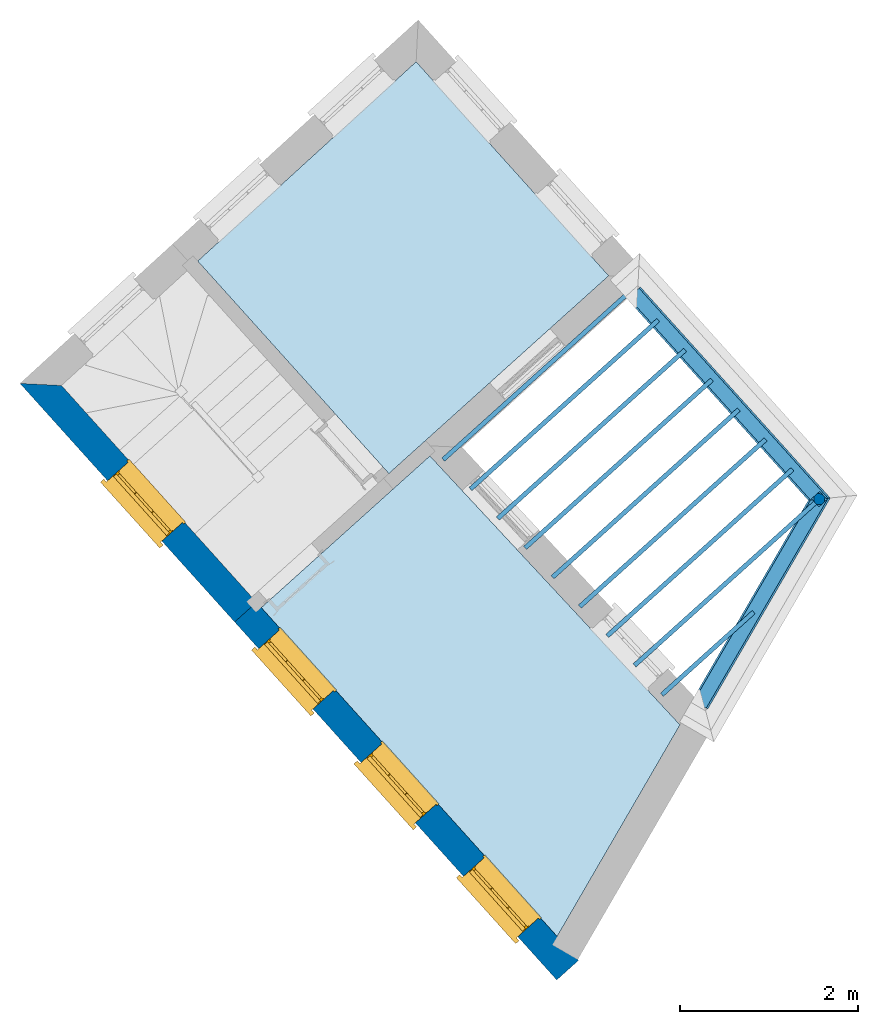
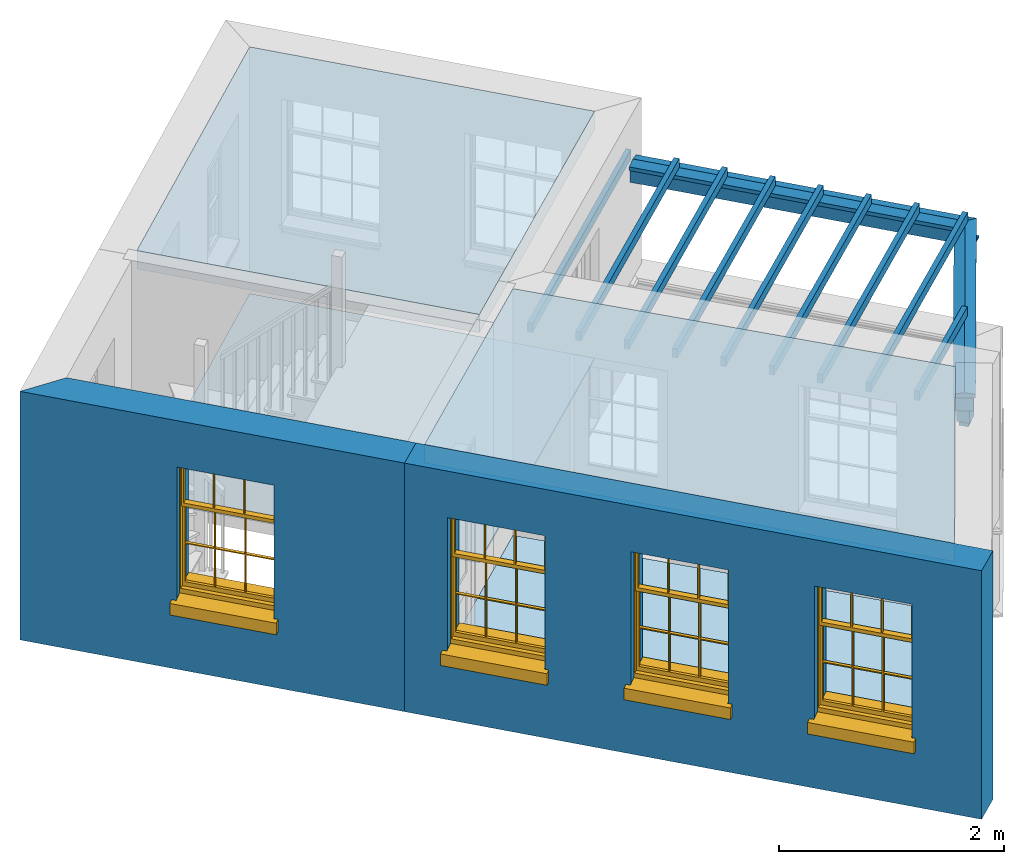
# One storey, part 1 of 7: 13 beams, 4 slabs, 4 windows, 2 walls, 1 column, 4 openings.
"""IFC4 building model written with IfcOpenShell, lengths in metres."""

from ifc_helpers import new_model, si_unit, frame, origin, origin_with_axes, place, context, subcontext, project, spatial, polyline, outline, extrude, clip, halfspace, faceted_brep, source, transform, mapped, material, layer, layer_set, layer_usage, material_profile, profile_set, profile_usage, type_object, type_shapes, element, fill, save


model = new_model("IFC4")

# Units and contexts
model_context = context("Model", 3, world=origin_with_axes())
body_context = subcontext(model_context, "Body", "Model", "MODEL_VIEW")
ifc_project = project(units=[si_unit("PLANEANGLEUNIT", "RADIAN"), si_unit("MASSUNIT", "GRAM", prefix="KILO"), si_unit("FORCEUNIT", "NEWTON", prefix="KILO"), si_unit("LENGTHUNIT", "METRE"), si_unit("AREAUNIT", "SQUARE_METRE"), si_unit("VOLUMEUNIT", "CUBIC_METRE")], contexts=[model_context, model_context])

# Sites, building, storey
site_1_placement = place(None, origin_with_axes())
site_1 = spatial("IfcSite", under=ifc_project, at=site_1_placement, Name="Tamar")
site_2_placement = place(site_1_placement, origin_with_axes())
site_2 = spatial("IfcSite", under=site_1, at=site_2_placement, Name="Site plot-7", CompositionType="ELEMENT")
building_placement = place(None, origin_with_axes())
building = spatial("IfcBuilding", under=site_2, at=building_placement, Name="Building plot-7", CompositionType="ELEMENT")
storey_placement = place(None, frame((0.0, 0.0, 29.15), z_axis=(0.0, 0.0, 1.0), x_axis=(1.0, 0.0, 0.0)))
storey = spatial("IfcBuildingStorey", under=building, at=storey_placement, Name="plot-7 1", CompositionType="ELEMENT", Elevation=29.15)

# Column
column_type = type_object("IfcColumnType", Name="pergola post", PredefinedType="NOTDEFINED")
shared_shape_1 = source(origin(), body_context, "Body", "Brep", [
    faceted_brep([(0.0246, -0.0615, 1.72), (0.0615, -0.0246, 1.72), (0.0615, -0.0615, 1.766667), (0.0615, -0.0246, 1.044444), (0.0246, -0.0615, 1.044444), (0.0615, 0.0246, 1.72), (0.0615, 0.0615, 1.766667), (-0.0246, -0.0615, 1.72), (-0.0615, -0.0615, 1.766667), (-0.0246, -0.0615, 1.044444), (0.0615, -0.0615, 0.997778), (0.0615, 0.0246, 1.044444), (0.0246, 0.0615, 1.72), (0.0615, 0.0615, 1.891111), (0.0615, -0.0615, 1.891111), (-0.0615, -0.0615, 1.891111), (-0.0615, -0.0246, 1.72), (-0.0615, -0.0246, 1.044444), (-0.0615, -0.0615, 0.997778), (0.0615, 0.0615, 0.997778), (0.0246, 0.0615, 1.044444), (-0.0246, 0.0615, 1.72), (-0.0615, 0.0615, 1.766667), (0.04305, 0.04305, 1.891111), (0.04305, -0.04305, 1.891111), (-0.0615, 0.0615, 1.891111), (-0.04305, -0.04305, 1.891111), (-0.0615, 0.0246, 1.72), (-0.0615, 0.0246, 1.044444), (0.0615, -0.0615, 0.053333), (-0.0615, -0.0615, 0.053333), (0.0615, 0.0615, 0.053333), (-0.0246, 0.0615, 1.044444), (-0.04305, 0.04305, 1.891111), (0.04305, 0.04305, 1.914444), (0.04305, -0.04305, 1.914444), (-0.04305, -0.04305, 1.914444), (-0.0615, 0.0615, 0.997778), (-0.0615, 0.0615, 0.053333), (-0.04305, -0.04305, 0.053333), (0.04305, -0.04305, 0.053333), (0.04305, 0.04305, 0.053333), (-0.04305, 0.04305, 1.914444), (0.07995, 0.07995, 1.914444), (0.07995, -0.07995, 1.914444), (-0.07995, -0.07995, 1.914444), (-0.04305, 0.04305, 0.053333), (-0.04305, -0.04305, 0.0), (0.04305, -0.04305, 0.0), (0.04305, 0.04305, 0.0), (-0.07995, 0.07995, 1.914444), (0.07995, 0.07995, 1.976667), (0.07995, -0.07995, 1.976667), (-0.07995, -0.07995, 1.976667), (-0.04305, 0.04305, 0.0), (-0.07995, 0.07995, 1.976667), (0.0984, 0.0984, 1.976667), (0.0984, -0.0984, 1.976667), (-0.0984, -0.0984, 1.976667), (-0.0984, 0.0984, 1.976667), (0.0984, 0.0984, 2.0), (0.0984, -0.0984, 2.0), (-0.0984, -0.0984, 2.0), (-0.0984, 0.0984, 2.0)], [[[0, 1, 2]], [[3, 1, 0, 4]], [[1, 5, 6, 2]], [[7, 0, 2, 8]], [[4, 0, 7, 9]], [[3, 4, 10]], [[1, 3, 11, 5]], [[5, 12, 6]], [[13, 14, 2, 6]], [[15, 8, 2, 14]], [[8, 16, 7]], [[9, 7, 16, 17]], [[9, 18, 10, 4]], [[3, 10, 19, 11]], [[20, 12, 5, 11]], [[21, 22, 6, 12]], [[14, 13, 23, 24]], [[13, 6, 22, 25]], [[25, 22, 8, 15]], [[26, 15, 14, 24]], [[16, 8, 22, 27]], [[27, 28, 17, 16]], [[17, 18, 9]], [[29, 10, 18, 30]], [[31, 19, 10, 29]], [[20, 11, 19]], [[12, 20, 32, 21]], [[21, 27, 22]], [[33, 23, 13, 25]], [[23, 34, 35, 24]], [[26, 33, 25, 15]], [[36, 26, 24, 35]], [[28, 27, 21, 32]], [[17, 28, 37, 18]], [[38, 30, 18, 37]], [[29, 30, 39, 40]], [[31, 38, 37, 19]], [[40, 41, 31, 29]], [[32, 20, 19, 37]], [[33, 42, 34, 23]], [[43, 44, 35, 34]], [[42, 33, 26, 36]], [[36, 35, 44, 45]], [[28, 32, 37]], [[46, 39, 30, 38]], [[39, 47, 48, 40]], [[46, 38, 31, 41]], [[49, 41, 40, 48]], [[43, 34, 42, 50]], [[43, 51, 52, 44]], [[45, 50, 42, 36]], [[53, 45, 44, 52]], [[46, 54, 47, 39]], [[54, 46, 41, 49]], [[50, 55, 51, 43]], [[56, 57, 52, 51]], [[55, 50, 45, 53]], [[53, 52, 57, 58]], [[56, 51, 55, 59]], [[56, 60, 61, 57]], [[58, 59, 55, 53]], [[62, 58, 57, 61]], [[59, 63, 60, 56]], [[63, 62, 61, 60]], [[58, 62, 63, 59]], [[47, 54, 49, 48]]]),
])
type_shapes(column_type, [shared_shape_1])
column_placement = place(storey_placement, frame((248.082755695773, 285.854256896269, 0.0), z_axis=(0.0, 0.0, 1.0), x_axis=(-0.668853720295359, 0.743394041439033, 0.0)))
element("IfcColumn", 1, at=column_placement, inside=storey, type_object=column_type, Name="pergola post", context=body_context, shape_type="MappedRepresentation", body=[
    mapped(shared_shape_1, transform((0.0, 0.0, 0.0), scale=1.0)),
])

# Beams
ifc_material_profile_1 = material_profile(None, outline(polyline([(-0.08, -0.7), (0.08, -0.7), (0.08, -0.56), (-0.08, -0.56), (-0.08, -0.7)])))
ifc_profile_set_1 = profile_set([ifc_material_profile_1])
ifc_profile_usage_1 = profile_usage(ifc_profile_set_1)
beam_type_1 = type_object("IfcBeamType", Name="pergola beam_0", PredefinedType="NOTDEFINED", material=ifc_profile_set_1)
beam_1_placement = place(storey_placement, frame((248.584814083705, 286.719090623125, 2.7), z_axis=(-0.502058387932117, -0.864833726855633, 0.0), x_axis=(0.864833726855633, -0.502058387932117, 0.0)))
element("IfcBeam", 2, at=beam_1_placement, inside=storey, type_object=beam_type_1, material=ifc_profile_usage_1, Name="pergola beam_0", context=body_context, shape_type="Clipping", body=[
    clip(clip(extrude(outline(polyline([(-0.08, -0.7), (0.08, -0.7), (0.08, -0.56), (-0.08, -0.56), (-0.08, -0.7)])), origin_with_axes(), (0.0, 0.0, 1.0), 4.66324546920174), halfspace(frame((0.0, 0.0, 3.66324546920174), z_axis=(-2.09334252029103e-14, 0.0, -1.0), x_axis=(0.0, 1.0, 0.0)), True)), halfspace(frame((0.0, 0.0, 1.0), z_axis=(-0.588596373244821, 0.0, -0.80842705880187), x_axis=(0.0, 1.0, 0.0)), False)),
])
ifc_profile_usage_2 = profile_usage(ifc_profile_set_1)
beam_2_placement = place(storey_placement, frame((245.33300074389, 288.910457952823, 2.7), z_axis=(0.668853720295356, -0.743394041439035, 0.0), x_axis=(0.743394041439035, 0.668853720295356, 0.0)))
element("IfcBeam", 3, at=beam_2_placement, inside=storey, type_object=beam_type_1, material=ifc_profile_usage_2, Name="pergola beam_0", context=body_context, shape_type="Clipping", body=[
    clip(clip(extrude(outline(polyline([(-0.08, -0.7), (0.08, -0.7), (0.08, -0.56), (-0.08, -0.56), (-0.08, -0.7)])), origin_with_axes(), (0.0, 0.0, 1.0), 5.11114548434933), halfspace(frame((0.0, 0.0, 4.11114548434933), z_axis=(0.588596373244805, 0.0, -0.808427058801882), x_axis=(0.0, 1.0, 0.0)), True)), halfspace(frame((0.0, 0.0, 1.0), z_axis=(-5.83439206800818e-15, 0.0, -1.0), x_axis=(0.0, 1.0, 0.0)), False)),
])
ifc_material_profile_2 = material_profile(None, outline(polyline([(0.0, -0.5), (-0.1, -0.52), (-0.1, -0.56), (0.1, -0.56), (0.1, -0.52), (0.0, -0.5)])))
ifc_profile_set_2 = profile_set([ifc_material_profile_2])
ifc_profile_usage_3 = profile_usage(ifc_profile_set_2)
beam_type_2 = type_object("IfcBeamType", Name="pergola beam_1", PredefinedType="NOTDEFINED", material=ifc_profile_set_2)
beam_3_placement = place(storey_placement, frame((248.584814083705, 286.719090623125, 2.7), z_axis=(-0.502058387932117, -0.864833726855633, 0.0), x_axis=(0.864833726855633, -0.502058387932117, 0.0)))
element("IfcBeam", 4, at=beam_3_placement, inside=storey, type_object=beam_type_2, material=ifc_profile_usage_3, Name="pergola beam_1", context=body_context, shape_type="Clipping", body=[
    clip(clip(extrude(outline(polyline([(0.0, -0.5), (-0.1, -0.52), (-0.1, -0.56), (0.1, -0.56), (0.1, -0.52), (0.0, -0.5)])), origin_with_axes(), (0.0, 0.0, 1.0), 4.66324546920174), halfspace(frame((0.0, 0.0, 3.66324546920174), z_axis=(-2.09334252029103e-14, 0.0, -1.0), x_axis=(0.0, 1.0, 0.0)), True)), halfspace(frame((0.0, 0.0, 1.0), z_axis=(-0.588596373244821, 0.0, -0.80842705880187), x_axis=(0.0, 1.0, 0.0)), False)),
])
ifc_profile_usage_4 = profile_usage(ifc_profile_set_2)
beam_4_placement = place(storey_placement, frame((245.33300074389, 288.910457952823, 2.7), z_axis=(0.668853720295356, -0.743394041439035, 0.0), x_axis=(0.743394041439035, 0.668853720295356, 0.0)))
element("IfcBeam", 5, at=beam_4_placement, inside=storey, type_object=beam_type_2, material=ifc_profile_usage_4, Name="pergola beam_1", context=body_context, shape_type="Clipping", body=[
    clip(clip(extrude(outline(polyline([(0.0, -0.5), (-0.1, -0.52), (-0.1, -0.56), (0.1, -0.56), (0.1, -0.52), (0.0, -0.5)])), origin_with_axes(), (0.0, 0.0, 1.0), 5.11114548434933), halfspace(frame((0.0, 0.0, 4.11114548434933), z_axis=(0.588596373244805, 0.0, -0.808427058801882), x_axis=(0.0, 1.0, 0.0)), True)), halfspace(frame((0.0, 0.0, 1.0), z_axis=(-5.83439206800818e-15, 0.0, -1.0), x_axis=(0.0, 1.0, 0.0)), False)),
])
beam_5_placement = place(storey_placement, frame((247.363821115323, 284.568448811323, 2.2)))
element("IfcBeam", 6, at=beam_5_placement, inside=storey, Name="My Beam", ObjectType="Beam", context=body_context, shape_type="SweptSolid", body=[
    extrude(outline(polyline([(0.0, 0.0), (-0.0334426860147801, 0.0371697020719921), (-1.06331303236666, -0.889435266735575), (-1.02987034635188, -0.926604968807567), (0.0, 0.0)])), origin_with_axes(), (0.0, 0.0, 1.0), 0.1),
])
beam_6_placement = place(storey_placement, frame((248.09947703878, 285.835672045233, 2.2)))
element("IfcBeam", 7, at=beam_6_placement, inside=storey, Name="My Beam", ObjectType="Beam", context=body_context, shape_type="SweptSolid", body=[
    extrude(outline(polyline([(0.0, 0.0), (-0.0334426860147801, 0.0371697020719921), (-2.1054978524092, -1.82711993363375), (-2.07205516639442, -1.86428963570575), (0.0, 0.0)])), origin_with_axes(), (0.0, 0.0, 1.0), 0.1),
])
beam_7_placement = place(storey_placement, frame((247.798492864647, 286.170199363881, 2.2)))
element("IfcBeam", 8, at=beam_7_placement, inside=storey, Name="My Beam", ObjectType="Beam", context=body_context, shape_type="SweptSolid", body=[
    extrude(outline(polyline([(0.0, 0.0), (-0.0334426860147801, 0.0371697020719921), (-2.11104257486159, -1.83210868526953), (-2.07759988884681, -1.86927838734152), (0.0, 0.0)])), origin_with_axes(), (0.0, 0.0, 1.0), 0.1),
])
beam_8_placement = place(storey_placement, frame((247.497508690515, 286.504726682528, 2.2)))
element("IfcBeam", 9, at=beam_8_placement, inside=storey, Name="My Beam", ObjectType="Beam", context=body_context, shape_type="SweptSolid", body=[
    extrude(outline(polyline([(0.0, 0.0), (-0.0334426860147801, 0.0371697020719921), (-2.116587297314, -1.83709743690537), (-2.08314461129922, -1.87426713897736), (0.0, 0.0)])), origin_with_axes(), (0.0, 0.0, 1.0), 0.1),
])
beam_9_placement = place(storey_placement, frame((247.196524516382, 286.839254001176, 2.2)))
element("IfcBeam", 10, at=beam_9_placement, inside=storey, Name="My Beam", ObjectType="Beam", context=body_context, shape_type="SweptSolid", body=[
    extrude(outline(polyline([(0.0, 0.0), (-0.0334426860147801, 0.0371697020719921), (-2.12213201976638, -1.8420861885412), (-2.0886893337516, -1.87925589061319), (0.0, 0.0)])), origin_with_axes(), (0.0, 0.0, 1.0), 0.1),
])
beam_10_placement = place(storey_placement, frame((246.895540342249, 287.173781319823, 2.2)))
element("IfcBeam", 11, at=beam_10_placement, inside=storey, Name="My Beam", ObjectType="Beam", context=body_context, shape_type="SweptSolid", body=[
    extrude(outline(polyline([(0.0, 0.0), (-0.0334426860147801, 0.0371697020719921), (-2.1276767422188, -1.84707494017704), (-2.09423405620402, -1.88424464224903), (0.0, 0.0)])), origin_with_axes(), (0.0, 0.0, 1.0), 0.1),
])
beam_11_placement = place(storey_placement, frame((246.594556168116, 287.508308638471, 2.2)))
element("IfcBeam", 12, at=beam_11_placement, inside=storey, Name="My Beam", ObjectType="Beam", context=body_context, shape_type="SweptSolid", body=[
    extrude(outline(polyline([(0.0, 0.0), (-0.0334426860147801, 0.0371697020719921), (-2.13322146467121, -1.85206369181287), (-2.09977877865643, -1.88923339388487), (0.0, 0.0)])), origin_with_axes(), (0.0, 0.0, 1.0), 0.1),
])
beam_12_placement = place(storey_placement, frame((246.293571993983, 287.842835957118, 2.2)))
element("IfcBeam", 13, at=beam_12_placement, inside=storey, Name="My Beam", ObjectType="Beam", context=body_context, shape_type="SweptSolid", body=[
    extrude(outline(polyline([(0.0, 0.0), (-0.0334426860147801, 0.0371697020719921), (-2.13876618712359, -1.85705244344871), (-2.10532350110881, -1.8942221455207), (0.0, 0.0)])), origin_with_axes(), (0.0, 0.0, 1.0), 0.1),
])
beam_13_placement = place(storey_placement, frame((245.99258781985, 288.177363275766, 2.2)))
element("IfcBeam", 14, at=beam_13_placement, inside=storey, Name="My Beam", ObjectType="Beam", context=body_context, shape_type="SweptSolid", body=[
    extrude(outline(polyline([(0.0, 0.0), (-0.0334426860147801, 0.0371697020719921), (-2.14431090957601, -1.86204119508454), (-2.11086822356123, -1.89921089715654), (0.0, 0.0)])), origin_with_axes(), (0.0, 0.0, 1.0), 0.1),
])

# Slabs
slab_1_placement = place(storey_placement, frame((243.256453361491, 286.14085485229, 2.5)))
element("IfcSlab", 15, at=slab_1_placement, inside=storey, Name="My Slab", ObjectType="Slab", PredefinedType="FLOOR", context=body_context, shape_type="SweptSolid", body=[
    extrude(outline(polyline([(0.0, 0.0), (2.46520785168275, 2.21802079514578), (0.30557225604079, 4.61833671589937), (-2.14384101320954, 2.3827611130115), (0.0, 0.0)])), origin_with_axes(), (0.0, 0.0, 1.0), 0.2),
])
slab_2_placement = place(storey_placement, frame((243.256453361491, 286.14085485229, 0.0)))
element("IfcSlab", 16, at=slab_2_placement, inside=storey, Name="My Slab", ObjectType="Slab", PredefinedType="FLOOR", context=body_context, shape_type="SweptSolid", body=[
    extrude(outline(polyline([(0.0, 0.0), (2.46520785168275, 2.21802079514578), (0.30557225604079, 4.61833671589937), (-2.14384101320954, 2.3827611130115), (0.0, 0.0)])), origin_with_axes(), (0.0, 0.0, 1.0), 0.02),
])
slab_3_placement = place(storey_placement, frame((245.14349583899, 280.950502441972, 2.5)))
element("IfcSlab", 17, at=slab_3_placement, inside=storey, Name="My Slab", ObjectType="Slab", PredefinedType="FLOOR", context=body_context, shape_type="SweptSolid", body=[
    extrude(outline(polyline([(0.0, 0.0), (1.37769853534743, 2.37319042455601), (-1.42731034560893, 5.38875801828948), (-3.31793745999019, 3.68770459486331), (0.0, 0.0)])), origin_with_axes(), (0.0, 0.0, 1.0), 0.2),
])
slab_4_placement = place(storey_placement, frame((245.14349583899, 280.950502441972, 0.0)))
element("IfcSlab", 18, at=slab_4_placement, inside=storey, Name="My Slab", ObjectType="Slab", PredefinedType="FLOOR", context=body_context, shape_type="SweptSolid", body=[
    extrude(outline(polyline([(0.0, 0.0), (1.37769853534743, 2.37319042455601), (-1.42731034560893, 5.38875801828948), (-3.31793745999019, 3.68770459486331), (0.0, 0.0)])), origin_with_axes(), (0.0, 0.0, 1.0), 0.02),
])

# Wall, opening, window
ifc_material = material(Name="Masonry")
ifc_layer = layer(ifc_material, 0.33, ventilated=False)
ifc_layer_set = layer_set([ifc_layer], Name="exterior_0.08_0.25")
ifc_layer_usage = layer_usage(ifc_layer_set, "AXIS2", "POSITIVE", -0.25)
wall_type = type_object("IfcWallType", Name="exterior_0.08_0.25", PredefinedType="SOLIDWALL", material=ifc_layer_set)
wall_1_placement = place(storey_placement, frame((239.471954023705, 287.134500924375, 0.0), z_axis=(0.0, 0.0, 1.0), x_axis=(0.668853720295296, -0.743394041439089, 0.0)))
wall_1 = element("IfcWall", 19, at=wall_1_placement, inside=storey, type_object=wall_type, material=ifc_layer_usage, Name="exterior", context=body_context, shape_type="SweptSolid", body=[
    extrude(outline(polyline([(0.0794323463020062, 0.0799999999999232), (-0.248226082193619, -0.250000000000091), (3.34994703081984, -0.250000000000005), (3.34994703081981, 0.0800000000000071), (0.0794323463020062, 0.0799999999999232)])), origin_with_axes(), (0.0, 0.0, 1.0), 2.7),
])
opening_1_placement = place(wall_1_placement, frame((1.21997351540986, 0.0, 0.75)))
opening_1 = element("IfcOpeningElement", 20, at=opening_1_placement, cuts=wall_1, Name="My Opening", ObjectType="Opening", context=body_context, shape_type="SweptSolid", body=[
    extrude(outline(polyline([(0.0, -0.269999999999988), (0.910000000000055, -0.27), (0.910000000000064, 1.09999999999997), (9.32587340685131e-15, 1.09999999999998), (0.0, -0.269999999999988)])), origin_with_axes(), (0.0, 0.0, 1.0), 1.445),
])
window_type = type_object("IfcWindowType", Name="sash_shorter", PartitioningType="DOUBLE_PANEL_HORIZONTAL", PredefinedType="NOTDEFINED")
shared_shape_2 = source(origin(), body_context, "Body", "Brep", [
    faceted_brep([(0.876875, 0.145, 0.999097), (0.876875, 0.145, 1.411875), (0.9, 0.145, 1.435), (0.033125, 0.145, 1.411875), (0.033125, 0.145, 0.999097), (0.01, 0.145, 1.435), (0.033125, 0.115, 1.411875), (0.01, 0.115, 1.435), (0.033125, 0.115, 0.999097), (0.876875, 0.115, 1.411875), (0.876875, 0.115, 0.999097), (0.9, 0.115, 1.435), (0.033125, 0.145, 0.960972), (0.01, 0.145, 0.960972), (0.033125, 0.145, 0.548195), (0.876875, 0.145, 0.960972), (0.876875, 0.145, 0.548195), (0.9, 0.145, 0.960972), (0.876875, 0.145, 0.538195), (0.876875, 0.145, 0.125417), (0.9, 0.145, 0.077167), (0.033125, 0.145, 0.125417), (0.033125, 0.145, 0.538195), (0.01, 0.145, 0.077167), (0.9, 0.115, 0.960972), (0.01, 0.115, 0.960972), (-0.0425, 0.0, 0.01), (-0.0425, -0.05, 0.001667), (0.0, 0.0, 0.01), (0.9525, 0.0, 0.01), (0.91, 0.0, 0.01), (0.9525, -0.05, 0.001667), (-0.02, 0.33, 0.077167), (0.0, 0.33, 0.077167), (-0.02, 0.36, 0.077167), (0.0, 0.19, 0.077167), (0.01, 0.19, 0.077167), (0.91, 0.19, 0.077167), (0.91, 0.33, 0.077167), (0.9, 0.19, 0.077167), (0.93, 0.33, 0.077167), (0.93, 0.36, 0.077167), (0.01, 0.145, 0.999097), (0.01, 0.175, 0.999097), (0.9, 0.145, 0.999097), (0.9, 0.175, 0.999097), (0.876875, 0.175, 0.125417), (0.876875, 0.175, 0.538195), (0.9, 0.175, 0.077167), (0.876875, 0.175, 0.548195), (0.876875, 0.175, 0.960972), (0.033125, 0.175, 0.125417), (0.01, 0.175, 0.077167), (0.033125, 0.175, 0.538195), (0.033125, 0.175, 0.960972), (0.033125, 0.175, 0.548195), (-0.02, 0.33, 0.052167), (-0.02, 0.36, 0.052167), (0.93, 0.36, 0.052167), (0.93, 0.33, 0.052167), (0.91, 0.33, 0.052167), (0.0, 0.33, 0.052167), (0.91, 0.1, 0.026667), (0.0, 0.1, 0.026667), (-0.0425, -0.05, -0.123333), (0.9525, -0.05, -0.123333), (-0.0425, 0.0, -0.123333), (0.9525, 0.0, -0.123333), (0.01, 0.19, 1.435), (0.9, 0.19, 1.435), (0.0, 0.19, 1.445), (0.91, 0.19, 1.445), (0.01, 0.1, 0.077167), (0.9, 0.1, 0.077167), (0.592292, 0.145, 0.125417), (0.592292, 0.175, 0.125417), (0.317708, 0.175, 0.125417), (0.317708, 0.145, 0.125417), (0.592292, 0.145, 0.548195), (0.317708, 0.145, 0.548195), (0.317708, 0.145, 0.538195), (0.592292, 0.145, 0.538195), (0.592292, 0.175, 0.548195), (0.317708, 0.175, 0.548195), (0.602292, 0.175, 0.548195), (0.602292, 0.145, 0.548195), (0.317708, 0.175, 0.538195), (0.307708, 0.175, 0.125417), (0.307708, 0.175, 0.538195), (0.602292, 0.175, 0.538195), (0.602292, 0.175, 0.125417), (0.592292, 0.175, 0.538195), (0.307708, 0.175, 0.548195), (0.317708, 0.175, 0.960972), (0.307708, 0.175, 0.960972), (0.602292, 0.175, 0.960972), (0.592292, 0.175, 0.960972), (0.307708, 0.145, 0.538195), (0.307708, 0.145, 0.125417), (0.307708, 0.145, 0.548195), (0.307708, 0.145, 0.960972), (0.592292, 0.145, 0.960972), (0.317708, 0.145, 0.960972), (0.602292, 0.145, 0.960972), (0.602292, 0.145, 0.538195), (0.602292, 0.145, 0.125417), (0.317708, 0.115, 1.411875), (0.307708, 0.115, 1.411875), (0.307708, 0.115, 0.999097), (0.317708, 0.115, 0.999097), (0.602292, 0.115, 1.411875), (0.592292, 0.115, 1.411875), (0.592292, 0.115, 0.999097), (0.602292, 0.115, 0.999097), (0.317708, 0.145, 0.999097), (0.307708, 0.145, 0.999097), (0.307708, 0.145, 1.411875), (0.317708, 0.145, 1.411875), (0.602292, 0.145, 0.999097), (0.592292, 0.145, 0.999097), (0.592292, 0.145, 1.411875), (0.602292, 0.145, 1.411875), (0.91, 0.1, 1.445), (0.9, 0.1, 1.435), (0.01, 0.1, 1.435), (0.0, 0.1, 1.445), (0.91, 0.0, 0.0), (0.0, 0.0, 0.0), (0.91, 0.33, 0.0), (0.0, 0.33, 0.0)], [[[0, 1, 2]], [[3, 4, 5]], [[6, 7, 8]], [[9, 10, 11]], [[12, 13, 14]], [[15, 16, 17]], [[18, 19, 20]], [[21, 22, 23]], [[24, 15, 17]], [[13, 12, 25]], [[26, 27, 28]], [[29, 30, 31]], [[32, 33, 34]], [[35, 36, 33]], [[37, 38, 39]], [[40, 41, 38]], [[42, 4, 43]], [[44, 45, 0]], [[46, 47, 48]], [[49, 50, 45]], [[51, 52, 53]], [[54, 55, 43]], [[38, 33, 36, 39]], [[41, 34, 33, 38]], [[56, 32, 34, 57]], [[57, 34, 41, 58]], [[58, 41, 40, 59]], [[57, 58, 60, 61]], [[52, 48, 39, 36]], [[62, 63, 28, 30]], [[27, 31, 30, 28]], [[27, 64, 65, 31]], [[66, 67, 65, 64]], [[2, 5, 68, 69]], [[68, 70, 71, 69]], [[20, 23, 72, 73]], [[73, 72, 63, 62]], [[74, 75, 76, 77]], [[78, 79, 80, 81]], [[78, 82, 83, 79]], [[16, 49, 84, 85]], [[86, 76, 87, 88]], [[89, 90, 75, 91]], [[92, 88, 53, 55]], [[82, 91, 86, 83]], [[93, 83, 92, 94]], [[95, 84, 82, 96]], [[89, 84, 49, 47]], [[97, 88, 87, 98]], [[22, 53, 88, 97]], [[81, 91, 75, 74]], [[80, 86, 91, 81]], [[77, 76, 86, 80]], [[99, 92, 55, 14]], [[100, 94, 92, 99]], [[101, 96, 82, 78]], [[79, 83, 93, 102]], [[85, 84, 95, 103]], [[104, 89, 47, 18]], [[105, 90, 89, 104]], [[104, 18, 16, 85]], [[80, 97, 98, 77]], [[104, 81, 74, 105]], [[103, 101, 78, 85]], [[99, 14, 22, 97]], [[102, 100, 99, 79]], [[106, 107, 108, 109]], [[110, 111, 112, 113]], [[114, 115, 116, 117]], [[118, 119, 120, 121]], [[107, 116, 115, 108]], [[111, 120, 119, 112]], [[109, 114, 117, 106]], [[113, 118, 121, 110]], [[85, 78, 81, 104]], [[84, 89, 91, 82]], [[83, 86, 88, 92]], [[79, 99, 97, 80]], [[109, 112, 119, 114]], [[102, 93, 96, 101]], [[106, 117, 120, 111]], [[98, 87, 51, 21]], [[6, 3, 116, 107]], [[110, 121, 1, 9]], [[19, 46, 90, 105]], [[26, 66, 64, 27]], [[29, 31, 65, 67]], [[25, 24, 112, 109]], [[11, 7, 106, 111]], [[75, 48, 52, 76]], [[43, 45, 96, 93]], [[45, 43, 114, 119]], [[5, 2, 120, 117]], [[24, 25, 102, 101]], [[42, 5, 4]], [[2, 44, 0]], [[49, 45, 48, 47]], [[52, 43, 55, 53]], [[14, 13, 23, 22]], [[20, 17, 16, 18]], [[24, 11, 10]], [[25, 8, 7]], [[8, 4, 3, 6]], [[9, 1, 0, 10]], [[15, 50, 49, 16]], [[18, 47, 46, 19]], [[21, 51, 53, 22]], [[14, 55, 54, 12]], [[44, 2, 69, 45]], [[68, 5, 42, 43]], [[36, 35, 70, 68]], [[39, 69, 71, 37]], [[62, 122, 123, 73]], [[63, 72, 124, 125]], [[8, 108, 115, 4]], [[113, 10, 0, 118]], [[94, 100, 12, 54]], [[17, 20, 73, 24]], [[72, 23, 13, 25]], [[52, 36, 68, 43]], [[69, 39, 48, 45]], [[11, 24, 73, 123]], [[7, 124, 72, 25]], [[23, 77, 98]], [[98, 21, 23]], [[105, 74, 20]], [[20, 19, 105]], [[20, 74, 77, 23]], [[113, 112, 24]], [[24, 10, 113]], [[25, 109, 108]], [[108, 8, 25]], [[110, 9, 11]], [[11, 111, 110]], [[7, 6, 107]], [[107, 106, 7]], [[5, 117, 116]], [[116, 3, 5]], [[121, 120, 2]], [[2, 1, 121]], [[11, 123, 124, 7]], [[122, 125, 124, 123]], [[43, 93, 94]], [[94, 54, 43]], [[96, 45, 95]], [[50, 95, 45]], [[15, 103, 95, 50]], [[48, 75, 90]], [[90, 46, 48]], [[87, 76, 52]], [[52, 51, 87]], [[103, 15, 24]], [[24, 101, 103]], [[100, 102, 25]], [[25, 12, 100]], [[115, 114, 43]], [[43, 4, 115]], [[118, 0, 45]], [[45, 119, 118]], [[71, 70, 125, 122]], [[70, 35, 63, 125]], [[122, 62, 37, 71]], [[126, 67, 66, 127]], [[60, 58, 59]], [[38, 60, 59, 40]], [[61, 56, 57]], [[32, 56, 61, 33]], [[61, 60, 128, 129]], [[62, 60, 38, 37]], [[126, 128, 60, 62]], [[33, 61, 63, 35]], [[61, 129, 127, 63]], [[128, 126, 127, 129]], [[28, 127, 66, 26]], [[63, 127, 28]], [[29, 67, 126, 30]], [[30, 126, 62]]]),
])
type_shapes(window_type, [shared_shape_2])
window_1_placement = place(storey_placement, frame((240.08722145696, 286.046989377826, 0.75), z_axis=(0.0, 0.0, 1.0), x_axis=(0.608656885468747, -0.67648857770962, 0.0)))
window_1 = element("IfcWindow", 21, at=window_1_placement, inside=storey, type_object=window_type, Name="circulation outside window", OverallHeight=1.445, OverallWidth=0.91, context=body_context, shape_type="MappedRepresentation", body=[
    mapped(shared_shape_2, transform((0.0, 0.0, 0.0), scale=1.0)),
])
fill(opening_1, window_1)

# Wall, openings, windows
wall_2_placement = place(storey_placement, frame((241.712578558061, 284.644170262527, 0.0), z_axis=(0.0, 0.0, 1.0), x_axis=(0.66885372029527, -0.743394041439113, 0.0)))
wall_2 = element("IfcWall", 22, at=wall_2_placement, inside=storey, type_object=wall_type, material=ifc_layer_usage, Name="exterior", context=body_context, shape_type="SweptSolid", body=[
    extrude(outline(polyline([(-1.40638475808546e-14, 0.080000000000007), (3.03741866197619e-14, -0.250000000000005), (5.40051106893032, -0.250000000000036), (5.40051106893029, 0.0799999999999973), (-1.40638475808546e-14, 0.080000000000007)])), origin_with_axes(), (0.0, 0.0, 1.0), 2.7),
])
opening_2_placement = place(wall_2_placement, frame((0.40341851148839, 0.0, 0.75)))
opening_2 = element("IfcOpeningElement", 23, at=opening_2_placement, cuts=wall_2, Name="My Opening", ObjectType="Opening", context=body_context, shape_type="SweptSolid", body=[
    extrude(outline(polyline([(0.0, -0.269999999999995), (0.909999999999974, -0.269999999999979), (0.909999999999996, 1.09999999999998), (2.18713935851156e-14, 1.09999999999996), (0.0, -0.269999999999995)])), origin_with_axes(), (0.0, 0.0, 1.0), 1.445),
])
opening_3_placement = place(wall_2_placement, frame((2.12025553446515, 0.0, 0.75)))
opening_3 = element("IfcOpeningElement", 24, at=opening_3_placement, cuts=wall_2, Name="My Opening", ObjectType="Opening", context=body_context, shape_type="SweptSolid", body=[
    extrude(outline(polyline([(0.0, -0.270000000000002), (0.909999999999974, -0.269999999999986), (0.909999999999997, 1.09999999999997), (2.17603712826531e-14, 1.09999999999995), (0.0, -0.270000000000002)])), origin_with_axes(), (0.0, 0.0, 1.0), 1.445),
])
opening_4_placement = place(wall_2_placement, frame((3.83709255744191, 0.0, 0.75)))
opening_4 = element("IfcOpeningElement", 25, at=opening_4_placement, cuts=wall_2, Name="My Opening", ObjectType="Opening", context=body_context, shape_type="SweptSolid", body=[
    extrude(outline(polyline([(0.0, -0.270000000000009), (0.909999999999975, -0.269999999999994), (0.909999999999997, 1.09999999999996), (2.1316282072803e-14, 1.09999999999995), (0.0, -0.270000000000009)])), origin_with_axes(), (0.0, 0.0, 1.0), 1.445),
])
window_2_placement = place(storey_placement, frame((241.781690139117, 284.163680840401, 0.75), z_axis=(0.0, 0.0, 1.0), x_axis=(0.60865688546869, -0.676488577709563, 0.0)))
window_2 = element("IfcWindow", 26, at=window_2_placement, inside=storey, type_object=window_type, Name="bedroom outside window", OverallHeight=1.445, OverallWidth=0.91, context=body_context, shape_type="MappedRepresentation", body=[
    mapped(shared_shape_2, transform((0.0, 0.0, 0.0), scale=1.0)),
])
fill(opening_2, window_2)
window_3_placement = place(storey_placement, frame((242.930002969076, 282.887394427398, 0.75), z_axis=(0.0, 0.0, 1.0), x_axis=(0.60865688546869, -0.676488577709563, 0.0)))
window_3 = element("IfcWindow", 27, at=window_3_placement, inside=storey, type_object=window_type, Name="bedroom outside window", OverallHeight=1.445, OverallWidth=0.91, context=body_context, shape_type="MappedRepresentation", body=[
    mapped(shared_shape_2, transform((0.0, 0.0, 0.0), scale=1.0)),
])
fill(opening_3, window_3)
window_4_placement = place(storey_placement, frame((244.078315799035, 281.611108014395, 0.75), z_axis=(0.0, 0.0, 1.0), x_axis=(0.60865688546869, -0.676488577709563, 0.0)))
window_4 = element("IfcWindow", 28, at=window_4_placement, inside=storey, type_object=window_type, Name="bedroom outside window", OverallHeight=1.445, OverallWidth=0.91, context=body_context, shape_type="MappedRepresentation", body=[
    mapped(shared_shape_2, transform((0.0, 0.0, 0.0), scale=1.0)),
])
fill(opening_4, window_4)

save(model, "model.ifc")
